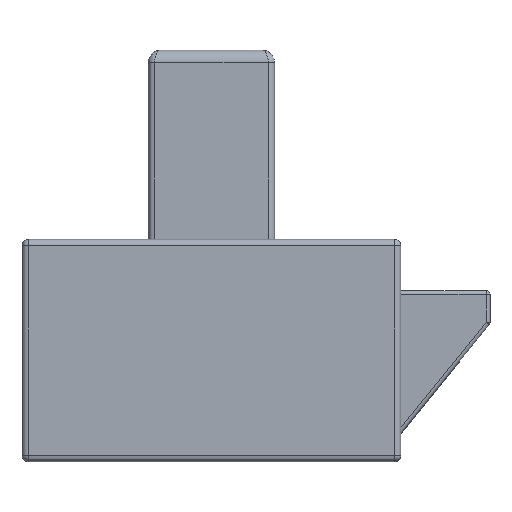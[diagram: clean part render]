
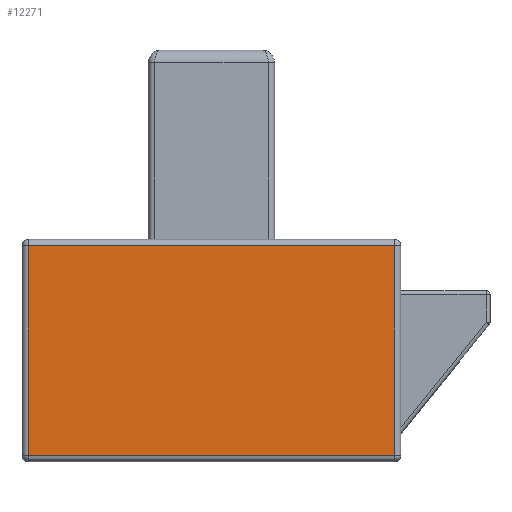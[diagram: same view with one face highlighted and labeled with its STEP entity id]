
A CAD part, top view. The second image highlights one B-rep face of the part: STEP entity #12271.
In plain terms, the highlighted planar face has unit normal (0, 0, 1).
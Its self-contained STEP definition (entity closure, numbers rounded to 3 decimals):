
#1876 = VECTOR ( 'NONE', #15309, 1000. ) ;
#2767 = VERTEX_POINT ( 'NONE', #17580 ) ;
#3199 = VERTEX_POINT ( 'NONE', #17965 ) ;
#3481 = ORIENTED_EDGE ( 'NONE', *, *, #22062, .T. ) ;
#4264 = ORIENTED_EDGE ( 'NONE', *, *, #14557, .T. ) ;
#6181 = CARTESIAN_POINT ( 'NONE',  ( 14.5, -17.1, 6. ) ) ;
#6744 = FACE_OUTER_BOUND ( 'NONE', #22034, .T. ) ;
#7253 = AXIS2_PLACEMENT_3D ( 'NONE', #14597, #20123, #9148 ) ;
#8046 = CARTESIAN_POINT ( 'NONE',  ( 15., -17.1, 6. ) ) ;
#8132 = ORIENTED_EDGE ( 'NONE', *, *, #15447, .F. ) ;
#9148 = DIRECTION ( 'NONE',  ( 0., 1., 0. ) ) ;
#10527 = CARTESIAN_POINT ( 'NONE',  ( -14.5, -17.1, 6. ) ) ;
#10821 = DIRECTION ( 'NONE',  ( 0., 1., 0. ) ) ;
#10952 = ORIENTED_EDGE ( 'NONE', *, *, #15733, .T. ) ;
#11257 = VECTOR ( 'NONE', #12363, 1000. ) ;
#11521 = VECTOR ( 'NONE', #10821, 1000. ) ;
#11562 = LINE ( 'NONE', #8046, #1876 ) ;
#11890 = CARTESIAN_POINT ( 'NONE',  ( 15., -0.5, 6. ) ) ;
#12271 = ADVANCED_FACE ( 'NONE', ( #6744 ), #18272, .F. ) ;
#12363 = DIRECTION ( 'NONE',  ( 0., -1., 0. ) ) ;
#12743 = CARTESIAN_POINT ( 'NONE',  ( 14.5, -0.5, 6. ) ) ;
#14557 = EDGE_CURVE ( 'NONE', #17807, #3199, #20676, .T. ) ;
#14597 = CARTESIAN_POINT ( 'NONE',  ( 15., -0.5, 6. ) ) ;
#15309 = DIRECTION ( 'NONE',  ( -1., 0., 0. ) ) ;
#15447 = EDGE_CURVE ( 'NONE', #17807, #20719, #11562, .T. ) ;
#15733 = EDGE_CURVE ( 'NONE', #2767, #20719, #20984, .T. ) ;
#17040 = CARTESIAN_POINT ( 'NONE',  ( -14.5, -17.1, 6. ) ) ;
#17320 = VECTOR ( 'NONE', #19143, 1000. ) ;
#17580 = CARTESIAN_POINT ( 'NONE',  ( -14.5, -0.5, 6. ) ) ;
#17807 = VERTEX_POINT ( 'NONE', #6181 ) ;
#17965 = CARTESIAN_POINT ( 'NONE',  ( 14.5, -0.5, 6. ) ) ;
#18272 = PLANE ( 'NONE',  #7253 ) ;
#19143 = DIRECTION ( 'NONE',  ( -1., 0., 0. ) ) ;
#20123 = DIRECTION ( 'NONE',  ( 0., 0., -1. ) ) ;
#20676 = LINE ( 'NONE', #12743, #11521 ) ;
#20719 = VERTEX_POINT ( 'NONE', #17040 ) ;
#20984 = LINE ( 'NONE', #10527, #11257 ) ;
#22034 = EDGE_LOOP ( 'NONE', ( #3481, #10952, #8132, #4264 ) ) ;
#22062 = EDGE_CURVE ( 'NONE', #3199, #2767, #22766, .T. ) ;
#22766 = LINE ( 'NONE', #11890, #17320 ) ;
